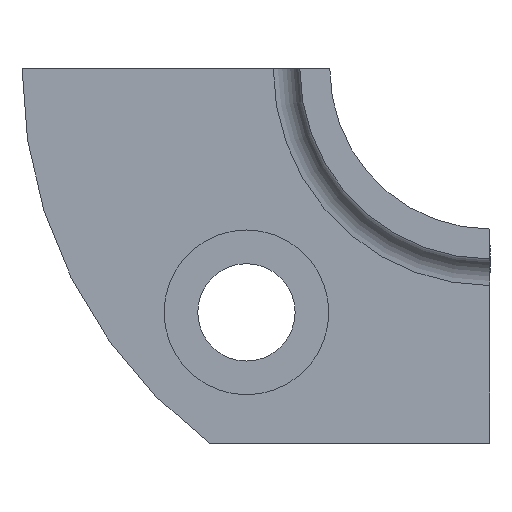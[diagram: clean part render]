
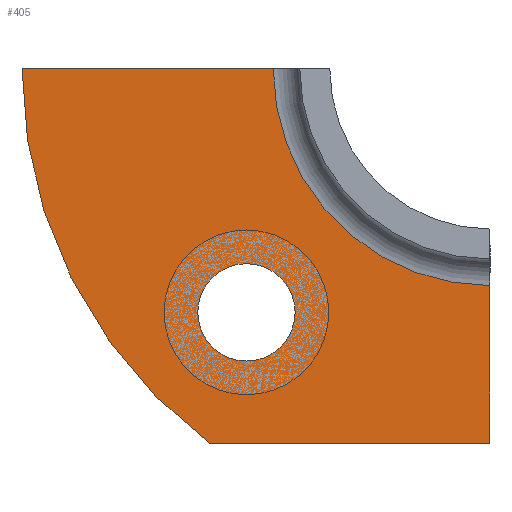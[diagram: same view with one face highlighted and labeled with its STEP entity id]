
A CAD part, front view. The second image highlights one B-rep face of the part: STEP entity #405.
In plain terms, the highlighted planar face has unit normal (0, -1, 0).
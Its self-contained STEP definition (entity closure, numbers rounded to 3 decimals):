
#100=DIRECTION('',(1.,0.,0.));
#101=VECTOR('',#100,67.1);
#102=CARTESIAN_POINT('',(-125.,101.11,0.));
#103=LINE('',#102,#101);
#104=DIRECTION('',(0.,0.,1.));
#105=VECTOR('',#104,42.1);
#106=CARTESIAN_POINT('',(0.,101.11,-100.));
#107=LINE('',#106,#105);
#108=DIRECTION('',(-1.,0.,0.));
#109=VECTOR('',#108,75.);
#110=CARTESIAN_POINT('',(0.,101.11,-100.));
#111=LINE('',#110,#109);
#112=CARTESIAN_POINT('',(0.,101.11,0.));
#113=DIRECTION('',(0.,1.,0.));
#114=DIRECTION('',(-0.6,0.,-0.8));
#115=AXIS2_PLACEMENT_3D('',#112,#113,#114);
#117=CARTESIAN_POINT('',(-65.054,101.11,-65.054));
#118=DIRECTION('',(0.,-1.,0.));
#119=DIRECTION('',(1.,0.,0.));
#120=AXIS2_PLACEMENT_3D('',#117,#118,#119);
#122=CARTESIAN_POINT('',(-65.054,101.11,-65.054));
#123=DIRECTION('',(0.,-1.,0.));
#124=DIRECTION('',(-1.,0.,0.));
#125=AXIS2_PLACEMENT_3D('',#122,#123,#124);
#142=CARTESIAN_POINT('',(0.,101.11,0.));
#143=DIRECTION('',(0.,1.,0.));
#144=DIRECTION('',(0.,0.,-1.));
#145=AXIS2_PLACEMENT_3D('',#142,#143,#144);
#186=CARTESIAN_POINT('',(0.,101.11,-100.));
#187=CARTESIAN_POINT('',(0.,101.11,-57.9));
#188=VERTEX_POINT('',#186);
#189=VERTEX_POINT('',#187);
#192=CARTESIAN_POINT('',(-75.,101.11,-100.));
#193=VERTEX_POINT('',#192);
#204=CARTESIAN_POINT('',(-125.,101.11,0.));
#205=CARTESIAN_POINT('',(-57.9,101.11,0.));
#206=VERTEX_POINT('',#204);
#207=VERTEX_POINT('',#205);
#220=CARTESIAN_POINT('',(-52.054,101.11,-65.054));
#221=CARTESIAN_POINT('',(-78.054,101.11,-65.054));
#222=VERTEX_POINT('',#220);
#223=VERTEX_POINT('',#221);
#385=CARTESIAN_POINT('',(0.,101.11,0.));
#386=DIRECTION('',(0.,-1.,0.));
#387=DIRECTION('',(1.,0.,0.));
#388=AXIS2_PLACEMENT_3D('',#385,#386,#387);
#389=PLANE('',#388);
#390=ORIENTED_EDGE('',*,*,#255,.T.);
#392=ORIENTED_EDGE('',*,*,#391,.F.);
#393=ORIENTED_EDGE('',*,*,#341,.F.);
#395=ORIENTED_EDGE('',*,*,#394,.T.);
#396=ORIENTED_EDGE('',*,*,#377,.T.);
#397=EDGE_LOOP('',(#390,#392,#393,#395,#396));
#398=FACE_OUTER_BOUND('',#397,.F.);
#400=ORIENTED_EDGE('',*,*,#399,.T.);
#402=ORIENTED_EDGE('',*,*,#401,.T.);
#403=EDGE_LOOP('',(#400,#402));
#404=FACE_BOUND('',#403,.F.);
#405=ADVANCED_FACE('',(#398,#404),#389,.T.);
#116=CIRCLE('',#115,125.);
#121=CIRCLE('',#120,13.);
#126=CIRCLE('',#125,13.);
#146=CIRCLE('',#145,57.9);
#255=EDGE_CURVE('',#206,#207,#103,.T.);
#341=EDGE_CURVE('',#188,#189,#107,.T.);
#377=EDGE_CURVE('',#193,#206,#116,.T.);
#391=EDGE_CURVE('',#189,#207,#146,.T.);
#394=EDGE_CURVE('',#188,#193,#111,.T.);
#399=EDGE_CURVE('',#222,#223,#121,.T.);
#401=EDGE_CURVE('',#223,#222,#126,.T.);
